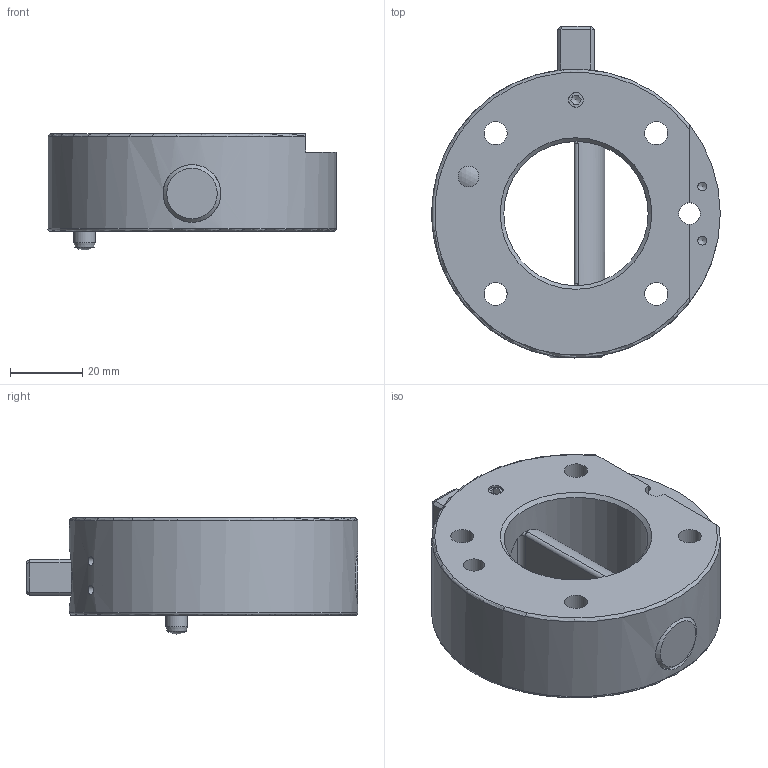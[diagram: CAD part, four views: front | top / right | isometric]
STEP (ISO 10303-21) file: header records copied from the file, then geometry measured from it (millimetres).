
FILE_DESCRIPTION((''),'2;1');
FILE_NAME('T:\CAD\Standard\Daten\3D-Datenbank\SWS\SWS080\step-Daten\G-SWS080-2OE.stp','2011-08-19T10:51:04',('Yvonne'),(''),'Autodesk Inventor 2011','Autodesk Inventor 2011','');
FILE_SCHEMA(('AUTOMOTIVE_DESIGN { 1 0 10303 214 1 1 1 1 }'));
Length unit declared in the file: millimetre
Products named in the file (1): Bauteil5
Bounding box: 79.98 x 92 x 32.17 mm (x, y, z)
Volume: 98854.8 mm3; surface area: 23186 mm2
Topology: 1 solids, 1 shells, 102 faces, 249 edges, 155 vertices
Faces by surface type: cylinder 40, plane 35, cone 17, bspline 4, torus 4, sphere 2
Full cylindrical faces by diameter (mm): 2.459 x4, 3.5 x1, 4.134 x3, 5.8 x1, 6 x2, 6.4 x4, 11 x4, 16 x2, 40 x1, 80 x1
Entity records: 3261 total; most frequent: CARTESIAN_POINT 1021, DIRECTION 428, ORIENTED_EDGE 386, EDGE_CURVE 193, AXIS2_PLACEMENT_3D 186, EDGE_LOOP 163, VERTEX_POINT 136, STYLED_ITEM 103
